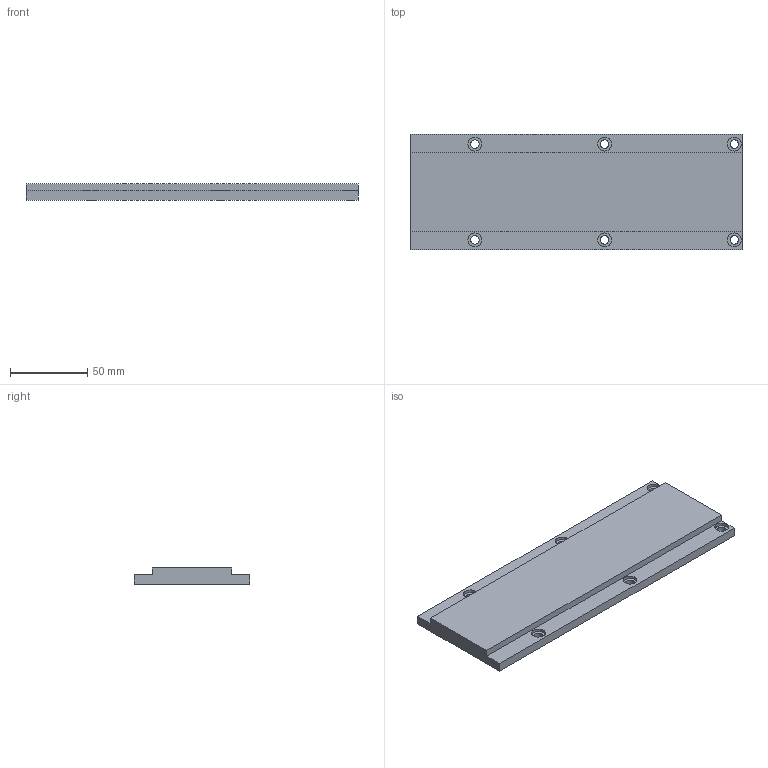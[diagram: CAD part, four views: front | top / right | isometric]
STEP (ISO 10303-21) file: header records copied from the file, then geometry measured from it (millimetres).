
FILE_DESCRIPTION (( 'STEP AP214' ), '1' );
FILE_NAME ('TLS-75-L215¶¨×Ó.STEP', '2021-04-28T08:10:41', ( '' ), ( '' ), 'SwSTEP 2.0', 'SolidWorks 2016', '' );
FILE_SCHEMA (( 'AUTOMOTIVE_DESIGN' ));
Length unit declared in the file: millimetre
Products named in the file (1): TLS-75-L215隅赽
Bounding box: 215 x 75 x 10.5 mm (x, y, z)
Volume: 145242.6 mm3; surface area: 38597.4 mm2
Topology: 1 solids, 1 shells, 40 faces, 96 edges, 64 vertices
Faces by surface type: cylinder 24, plane 16
Entity records: 1246 total; most frequent: DIRECTION 226, CARTESIAN_POINT 201, ORIENTED_EDGE 192, EDGE_CURVE 96, AXIS2_PLACEMENT_3D 89, VERTEX_POINT 64, EDGE_LOOP 58, VECTOR 48
